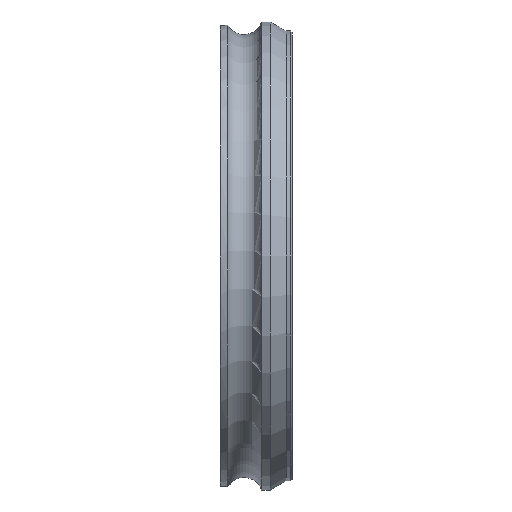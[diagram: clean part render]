
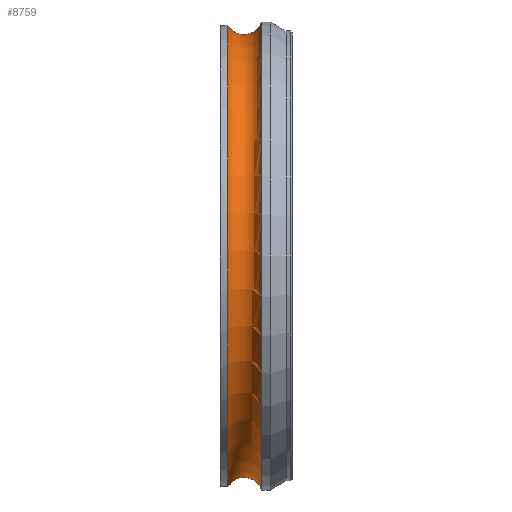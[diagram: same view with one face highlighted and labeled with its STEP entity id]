
A CAD part, left-side view. The second image highlights one B-rep face of the part: STEP entity #8759.
In plain terms, the highlighted toroidal (fillet/blend) face has major radius 40 mm and minor radius 3.1 mm.
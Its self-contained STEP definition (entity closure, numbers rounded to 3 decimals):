
#14=TOROIDAL_SURFACE('',#10098,40.,3.1);
#1615=FACE_OUTER_BOUND('',#2144,.T.);
#2144=EDGE_LOOP('',(#7691,#7692,#7693,#7694,#7695,#7696,#7697,#7698));
#2938=CIRCLE('',#10099,38.45);
#2939=CIRCLE('',#10100,3.1);
#2940=CIRCLE('',#10101,39.);
#2941=CIRCLE('',#10102,39.);
#2942=CIRCLE('',#10103,38.45);
#3203=B_SPLINE_CURVE_WITH_KNOTS('',3,(#16435,#16436,#16437,#16438,#16439,
#16440,#16441,#16442,#16443,#16444),.UNSPECIFIED.,.F.,.F.,(4,2,2,2,4),(-0.412,
-0.411,-0.264,-0.122,0.),
 .UNSPECIFIED.);
#3204=B_SPLINE_CURVE_WITH_KNOTS('',3,(#16445,#16446,#16447,#16448,#16449,
#16450,#16451,#16452,#16453,#16454),.UNSPECIFIED.,.F.,.F.,(4,2,2,2,4),(-0.414,
-0.291,-0.148,0.,0.001),
 .UNSPECIFIED.);
#3996=VERTEX_POINT('',#16428);
#3998=VERTEX_POINT('',#16432);
#3999=VERTEX_POINT('',#16434);
#4000=VERTEX_POINT('',#16456);
#4001=VERTEX_POINT('',#16458);
#4002=VERTEX_POINT('',#16460);
#5318=EDGE_CURVE('',#3999,#3998,#3203,.T.);
#5319=EDGE_CURVE('',#3996,#3999,#3204,.T.);
#5320=EDGE_CURVE('',#3998,#4000,#2938,.T.);
#5321=EDGE_CURVE('',#4000,#4001,#2939,.T.);
#5322=EDGE_CURVE('',#4002,#4001,#2940,.T.);
#5323=EDGE_CURVE('',#4001,#4002,#2941,.T.);
#5324=EDGE_CURVE('',#4000,#3996,#2942,.T.);
#7691=ORIENTED_EDGE('',*,*,#5319,.T.);
#7692=ORIENTED_EDGE('',*,*,#5318,.T.);
#7693=ORIENTED_EDGE('',*,*,#5320,.T.);
#7694=ORIENTED_EDGE('',*,*,#5321,.T.);
#7695=ORIENTED_EDGE('',*,*,#5322,.F.);
#7696=ORIENTED_EDGE('',*,*,#5323,.F.);
#7697=ORIENTED_EDGE('',*,*,#5321,.F.);
#7698=ORIENTED_EDGE('',*,*,#5324,.T.);
#8759=ADVANCED_FACE('',(#1615),#14,.F.);
#10098=AXIS2_PLACEMENT_3D('',#16455,#13002,#13003);
#10099=AXIS2_PLACEMENT_3D('',#16457,#13004,#13005);
#10100=AXIS2_PLACEMENT_3D('',#16459,#13006,#13007);
#10101=AXIS2_PLACEMENT_3D('',#16461,#13008,#13009);
#10102=AXIS2_PLACEMENT_3D('',#16462,#13010,#13011);
#10103=AXIS2_PLACEMENT_3D('',#16463,#13012,#13013);
#13002=DIRECTION('center_axis',(0.,-1.,0.));
#13003=DIRECTION('ref_axis',(0.,0.,-1.));
#13004=DIRECTION('center_axis',(0.,-1.,0.));
#13005=DIRECTION('ref_axis',(1.,0.,0.));
#13006=DIRECTION('center_axis',(-1.,0.,0.));
#13007=DIRECTION('ref_axis',(0.,0.,1.));
#13008=DIRECTION('center_axis',(0.,-1.,0.));
#13009=DIRECTION('ref_axis',(1.,0.,0.));
#13010=DIRECTION('center_axis',(0.,-1.,0.));
#13011=DIRECTION('ref_axis',(1.,0.,0.));
#13012=DIRECTION('center_axis',(0.,-1.,0.));
#13013=DIRECTION('ref_axis',(1.,0.,0.));
#16428=CARTESIAN_POINT('',(38.36,8.685,-2.631));
#16432=CARTESIAN_POINT('',(38.36,8.685,2.631));
#16434=CARTESIAN_POINT('',(36.9,6.,0.));
#16435=CARTESIAN_POINT('Ctrl Pts',(36.9,6.,0.));
#16436=CARTESIAN_POINT('Ctrl Pts',(36.9,6.002,0.002));
#16437=CARTESIAN_POINT('Ctrl Pts',(36.9,6.005,0.005));
#16438=CARTESIAN_POINT('Ctrl Pts',(36.901,6.363,0.348));
#16439=CARTESIAN_POINT('Ctrl Pts',(36.958,6.721,0.693));
#16440=CARTESIAN_POINT('Ctrl Pts',(37.188,7.398,1.348));
#16441=CARTESIAN_POINT('Ctrl Pts',(37.359,7.724,1.665));
#16442=CARTESIAN_POINT('Ctrl Pts',(37.798,8.269,2.206));
#16443=CARTESIAN_POINT('Ctrl Pts',(38.052,8.5,2.439));
#16444=CARTESIAN_POINT('Ctrl Pts',(38.36,8.685,2.631));
#16445=CARTESIAN_POINT('Ctrl Pts',(38.36,8.685,-2.631));
#16446=CARTESIAN_POINT('Ctrl Pts',(38.052,8.5,-2.439));
#16447=CARTESIAN_POINT('Ctrl Pts',(37.798,8.269,-2.206));
#16448=CARTESIAN_POINT('Ctrl Pts',(37.359,7.724,-1.665));
#16449=CARTESIAN_POINT('Ctrl Pts',(37.188,7.398,-1.348));
#16450=CARTESIAN_POINT('Ctrl Pts',(36.958,6.721,-0.693));
#16451=CARTESIAN_POINT('Ctrl Pts',(36.901,6.363,-0.348));
#16452=CARTESIAN_POINT('Ctrl Pts',(36.9,6.005,-0.005));
#16453=CARTESIAN_POINT('Ctrl Pts',(36.9,6.002,-0.002));
#16454=CARTESIAN_POINT('Ctrl Pts',(36.9,6.,0.));
#16455=CARTESIAN_POINT('Origin',(0.,6.,0.));
#16456=CARTESIAN_POINT('',(0.,8.685,38.45));
#16457=CARTESIAN_POINT('Origin',(0.,8.685,0.));
#16458=CARTESIAN_POINT('',(0.,3.066,39.));
#16459=CARTESIAN_POINT('Origin',(0.,6.,
40.));
#16460=CARTESIAN_POINT('',(-39.,3.066,0.));
#16461=CARTESIAN_POINT('Origin',(0.,3.066,0.));
#16462=CARTESIAN_POINT('Origin',(0.,3.066,0.));
#16463=CARTESIAN_POINT('Origin',(0.,8.685,0.));
